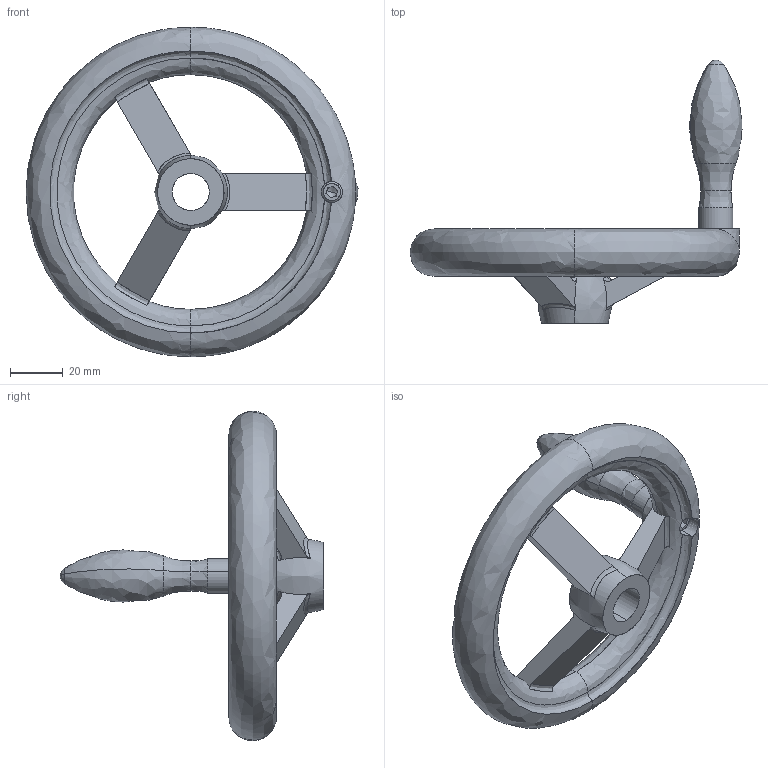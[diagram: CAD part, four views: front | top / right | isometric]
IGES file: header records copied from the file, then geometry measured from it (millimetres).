
Start section: SolidWorks IGES file using analytic representation for surfaces
Global section: file name: C:\Users\IanO\Desktop\Temp File\Process pending\77120_v2\77120_v2_20171108_IGES\77120.W0411.igs; native system: SolidWorks 2017; preprocessor: SolidWorks 2017; author: IanO; date: 171108.084703; units: millimetre
Bounding box: 125.9 x 100 x 125 mm (x, y, z)
Surface area: 30210.9 mm2 (no closed solid volume)
Topology: 0 solids, 0 shells, 127 faces, 1511 edges, 1502 vertices
Faces by surface type: bspline 73, revolution 54
